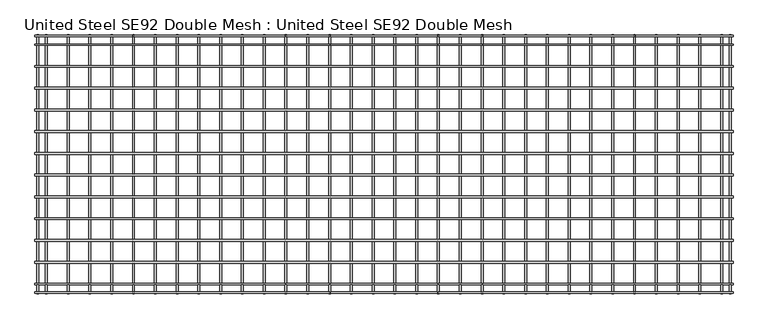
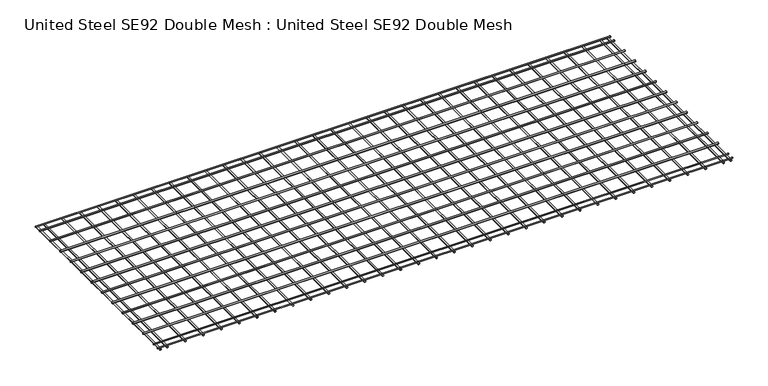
"""IFC4 building model written with IfcOpenShell, lengths in millimetres: proxy geometry, United Steel SE92 Double Mesh : United Steel SE92 Double Mesh."""

from ifc_helpers import new_model, si_unit, point, frame, frame_2d, origin, place, context, project, spatial, circle_curve, trimmed, segment, composite_curve, outline, extrude, source, transform, mapped, element, save


def united_steel_se92_double_mesh_united_steel_se92_double_mesh_89cb056f(model_context):
    return source(origin(), model_context, "Body", "SweptSolid", [
        extrude(outline(composite_curve([segment(trimmed(circle_curve(frame_2d((5.8975616, 1435.0)), 9.0), [point((5.8975616, 1444.0))], [point((5.8975616, 1426.0))], False, "CARTESIAN"), True, "CONTINUOUS"), segment(trimmed(circle_curve(frame_2d((5.8975616, 1435.0)), 9.0), [point((5.8975616, 1426.0))], [point((5.8975616, 1444.0))], False, "CARTESIAN"), True, "CONTINUOUS")], self_intersect=False)), frame((0.0, -2380.0, 0.0), z_axis=(0.0, 1.0, 0.0), x_axis=(0.0, 0.0, 1.0)), (0.0, 0.0, 1.0), 2380.0),
        extrude(outline(composite_curve([segment(trimmed(circle_curve(frame_2d((5.8975616, 1355.0)), 9.0), [point((5.8975616, 1364.0))], [point((5.8975616, 1346.0))], False, "CARTESIAN"), True, "CONTINUOUS"), segment(trimmed(circle_curve(frame_2d((5.8975616, 1355.0)), 9.0), [point((5.8975616, 1346.0))], [point((5.8975616, 1364.0))], False, "CARTESIAN"), True, "CONTINUOUS")], self_intersect=False)), frame((0.0, -2380.0, 0.0), z_axis=(0.0, 1.0, 0.0), x_axis=(0.0, 0.0, 1.0)), (0.0, 0.0, 1.0), 2380.0),
        extrude(outline(composite_curve([segment(trimmed(circle_curve(frame_2d((5.8975616, -4845.0004519)), 9.0), [point((5.8975616, -4836.0004519))], [point((5.8975616, -4854.0004519))], False, "CARTESIAN"), True, "CONTINUOUS"), segment(trimmed(circle_curve(frame_2d((5.8975616, -4845.0004519)), 9.0), [point((5.8975616, -4854.0004519))], [point((5.8975616, -4836.0004519))], False, "CARTESIAN"), True, "CONTINUOUS")], self_intersect=False)), frame((0.0, -2380.0, 0.0), z_axis=(0.0, 1.0, 0.0), x_axis=(0.0, 0.0, 1.0)), (0.0, 0.0, 1.0), 2380.0),
        extrude(outline(composite_curve([segment(trimmed(circle_curve(frame_2d((-2090.0, 23.8856726)), 9.0), [point((-2099.0, 23.8856726))], [point((-2081.0, 23.8856726))], False, "CARTESIAN"), True, "CONTINUOUS"), segment(trimmed(circle_curve(frame_2d((-2090.0, 23.8856726)), 9.0), [point((-2081.0, 23.8856726))], [point((-2099.0, 23.8856726))], False, "CARTESIAN"), True, "CONTINUOUS")], self_intersect=False)), frame((-4950.0, 0.0, 0.0), z_axis=(1.0, 0.0, 0.0), x_axis=(0.0, 1.0, 0.0)), (0.0, 0.0, 1.0), 6410.0),
        extrude(outline(composite_curve([segment(trimmed(circle_curve(frame_2d((-1890.0, 23.8856726)), 9.0), [point((-1899.0, 23.8856726))], [point((-1881.0, 23.8856726))], False, "CARTESIAN"), True, "CONTINUOUS"), segment(trimmed(circle_curve(frame_2d((-1890.0, 23.8856726)), 9.0), [point((-1881.0, 23.8856726))], [point((-1899.0, 23.8856726))], False, "CARTESIAN"), True, "CONTINUOUS")], self_intersect=False)), frame((-4950.0, 0.0, 0.0), z_axis=(1.0, 0.0, 0.0), x_axis=(0.0, 1.0, 0.0)), (0.0, 0.0, 1.0), 6410.0),
        extrude(outline(composite_curve([segment(trimmed(circle_curve(frame_2d((-1690.0, 23.8856726)), 9.0), [point((-1699.0, 23.8856726))], [point((-1681.0, 23.8856726))], False, "CARTESIAN"), True, "CONTINUOUS"), segment(trimmed(circle_curve(frame_2d((-1690.0, 23.8856726)), 9.0), [point((-1681.0, 23.8856726))], [point((-1699.0, 23.8856726))], False, "CARTESIAN"), True, "CONTINUOUS")], self_intersect=False)), frame((-4950.0, 0.0, 0.0), z_axis=(1.0, 0.0, 0.0), x_axis=(0.0, 1.0, 0.0)), (0.0, 0.0, 1.0), 6410.0),
        extrude(outline(composite_curve([segment(trimmed(circle_curve(frame_2d((-1490.0, 23.8856726)), 9.0), [point((-1499.0, 23.8856726))], [point((-1481.0, 23.8856726))], False, "CARTESIAN"), True, "CONTINUOUS"), segment(trimmed(circle_curve(frame_2d((-1490.0, 23.8856726)), 9.0), [point((-1481.0, 23.8856726))], [point((-1499.0, 23.8856726))], False, "CARTESIAN"), True, "CONTINUOUS")], self_intersect=False)), frame((-4950.0, 0.0, 0.0), z_axis=(1.0, 0.0, 0.0), x_axis=(0.0, 1.0, 0.0)), (0.0, 0.0, 1.0), 6410.0),
        extrude(outline(composite_curve([segment(trimmed(circle_curve(frame_2d((-1290.0, 23.8856726)), 9.0), [point((-1299.0, 23.8856726))], [point((-1281.0, 23.8856726))], False, "CARTESIAN"), True, "CONTINUOUS"), segment(trimmed(circle_curve(frame_2d((-1290.0, 23.8856726)), 9.0), [point((-1281.0, 23.8856726))], [point((-1299.0, 23.8856726))], False, "CARTESIAN"), True, "CONTINUOUS")], self_intersect=False)), frame((-4950.0, 0.0, 0.0), z_axis=(1.0, 0.0, 0.0), x_axis=(0.0, 1.0, 0.0)), (0.0, 0.0, 1.0), 6410.0),
        extrude(outline(composite_curve([segment(trimmed(circle_curve(frame_2d((-1090.0, 23.8856726)), 9.0), [point((-1099.0, 23.8856726))], [point((-1081.0, 23.8856726))], False, "CARTESIAN"), True, "CONTINUOUS"), segment(trimmed(circle_curve(frame_2d((-1090.0, 23.8856726)), 9.0), [point((-1081.0, 23.8856726))], [point((-1099.0, 23.8856726))], False, "CARTESIAN"), True, "CONTINUOUS")], self_intersect=False)), frame((-4950.0, 0.0, 0.0), z_axis=(1.0, 0.0, 0.0), x_axis=(0.0, 1.0, 0.0)), (0.0, 0.0, 1.0), 6410.0),
        extrude(outline(composite_curve([segment(trimmed(circle_curve(frame_2d((-890.0, 23.8856726)), 9.0), [point((-899.0, 23.8856726))], [point((-881.0, 23.8856726))], False, "CARTESIAN"), True, "CONTINUOUS"), segment(trimmed(circle_curve(frame_2d((-890.0, 23.8856726)), 9.0), [point((-881.0, 23.8856726))], [point((-899.0, 23.8856726))], False, "CARTESIAN"), True, "CONTINUOUS")], self_intersect=False)), frame((-4950.0, 0.0, 0.0), z_axis=(1.0, 0.0, 0.0), x_axis=(0.0, 1.0, 0.0)), (0.0, 0.0, 1.0), 6410.0),
        extrude(outline(composite_curve([segment(trimmed(circle_curve(frame_2d((-690.0, 23.8856726)), 9.0), [point((-699.0, 23.8856726))], [point((-681.0, 23.8856726))], False, "CARTESIAN"), True, "CONTINUOUS"), segment(trimmed(circle_curve(frame_2d((-690.0, 23.8856726)), 9.0), [point((-681.0, 23.8856726))], [point((-699.0, 23.8856726))], False, "CARTESIAN"), True, "CONTINUOUS")], self_intersect=False)), frame((-4950.0, 0.0, 0.0), z_axis=(1.0, 0.0, 0.0), x_axis=(0.0, 1.0, 0.0)), (0.0, 0.0, 1.0), 6410.0),
        extrude(outline(composite_curve([segment(trimmed(circle_curve(frame_2d((-490.0, 23.8856726)), 9.0), [point((-499.0, 23.8856726))], [point((-481.0, 23.8856726))], False, "CARTESIAN"), True, "CONTINUOUS"), segment(trimmed(circle_curve(frame_2d((-490.0, 23.8856726)), 9.0), [point((-481.0, 23.8856726))], [point((-499.0, 23.8856726))], False, "CARTESIAN"), True, "CONTINUOUS")], self_intersect=False)), frame((-4950.0, 0.0, 0.0), z_axis=(1.0, 0.0, 0.0), x_axis=(0.0, 1.0, 0.0)), (0.0, 0.0, 1.0), 6410.0),
        extrude(outline(composite_curve([segment(trimmed(circle_curve(frame_2d((-2290.0, 21.0190095)), 6.1), [point((-2296.1, 21.0190095))], [point((-2283.9, 21.0190095))], False, "CARTESIAN"), True, "CONTINUOUS"), segment(trimmed(circle_curve(frame_2d((-2290.0, 21.0190095)), 6.1), [point((-2283.9, 21.0190095))], [point((-2296.1, 21.0190095))], False, "CARTESIAN"), True, "CONTINUOUS")], self_intersect=False)), frame((-4950.0, 0.0, 0.0), z_axis=(1.0, 0.0, 0.0), x_axis=(0.0, 1.0, 0.0)), (0.0, 0.0, 1.0), 6410.0),
        extrude(outline(composite_curve([segment(trimmed(circle_curve(frame_2d((-2370.0, 21.0190095)), 6.1), [point((-2376.1, 21.0190095))], [point((-2363.9, 21.0190095))], False, "CARTESIAN"), True, "CONTINUOUS"), segment(trimmed(circle_curve(frame_2d((-2370.0, 21.0190095)), 6.1), [point((-2363.9, 21.0190095))], [point((-2376.1, 21.0190095))], False, "CARTESIAN"), True, "CONTINUOUS")], self_intersect=False)), frame((-4950.0, 0.0, 0.0), z_axis=(1.0, 0.0, 0.0), x_axis=(0.0, 1.0, 0.0)), (0.0, 0.0, 1.0), 6410.0),
        extrude(outline(composite_curve([segment(trimmed(circle_curve(frame_2d((-90.0, 21.0190095)), 6.1), [point((-96.1, 21.0190095))], [point((-83.9, 21.0190095))], False, "CARTESIAN"), True, "CONTINUOUS"), segment(trimmed(circle_curve(frame_2d((-90.0, 21.0190095)), 6.1), [point((-83.9, 21.0190095))], [point((-96.1, 21.0190095))], False, "CARTESIAN"), True, "CONTINUOUS")], self_intersect=False)), frame((-4950.0, 0.0, 0.0), z_axis=(1.0, 0.0, 0.0), x_axis=(0.0, 1.0, 0.0)), (0.0, 0.0, 1.0), 6410.0),
        extrude(outline(composite_curve([segment(trimmed(circle_curve(frame_2d((5.9028114, 1154.9995481)), 9.0), [point((5.9028114, 1145.9995481))], [point((5.9028114, 1163.9995481))], False, "CARTESIAN"), True, "CONTINUOUS"), segment(trimmed(circle_curve(frame_2d((5.9028114, 1154.9995481)), 9.0), [point((5.9028114, 1163.9995481))], [point((5.9028114, 1145.9995481))], False, "CARTESIAN"), True, "CONTINUOUS")], self_intersect=False)), frame((0.0, -2380.0, 0.0), z_axis=(0.0, 1.0, 0.0), x_axis=(0.0, 0.0, 1.0)), (0.0, 0.0, 1.0), 2380.0),
        extrude(outline(composite_curve([segment(trimmed(circle_curve(frame_2d((5.9028114, 954.9995481)), 9.0), [point((5.9028114, 945.9995481))], [point((5.9028114, 963.9995481))], False, "CARTESIAN"), True, "CONTINUOUS"), segment(trimmed(circle_curve(frame_2d((5.9028114, 954.9995481)), 9.0), [point((5.9028114, 963.9995481))], [point((5.9028114, 945.9995481))], False, "CARTESIAN"), True, "CONTINUOUS")], self_intersect=False)), frame((0.0, -2380.0, 0.0), z_axis=(0.0, 1.0, 0.0), x_axis=(0.0, 0.0, 1.0)), (0.0, 0.0, 1.0), 2380.0),
        extrude(outline(composite_curve([segment(trimmed(circle_curve(frame_2d((5.9028114, 754.9995481)), 9.0), [point((5.9028114, 745.9995481))], [point((5.9028114, 763.9995481))], False, "CARTESIAN"), True, "CONTINUOUS"), segment(trimmed(circle_curve(frame_2d((5.9028114, 754.9995481)), 9.0), [point((5.9028114, 763.9995481))], [point((5.9028114, 745.9995481))], False, "CARTESIAN"), True, "CONTINUOUS")], self_intersect=False)), frame((0.0, -2380.0, 0.0), z_axis=(0.0, 1.0, 0.0), x_axis=(0.0, 0.0, 1.0)), (0.0, 0.0, 1.0), 2380.0),
        extrude(outline(composite_curve([segment(trimmed(circle_curve(frame_2d((5.9028114, 554.9995481)), 9.0), [point((5.9028114, 545.9995481))], [point((5.9028114, 563.9995481))], False, "CARTESIAN"), True, "CONTINUOUS"), segment(trimmed(circle_curve(frame_2d((5.9028114, 554.9995481)), 9.0), [point((5.9028114, 563.9995481))], [point((5.9028114, 545.9995481))], False, "CARTESIAN"), True, "CONTINUOUS")], self_intersect=False)), frame((0.0, -2380.0, 0.0), z_axis=(0.0, 1.0, 0.0), x_axis=(0.0, 0.0, 1.0)), (0.0, 0.0, 1.0), 2380.0),
        extrude(outline(composite_curve([segment(trimmed(circle_curve(frame_2d((5.9028114, 354.9995481)), 9.0), [point((5.9028114, 345.9995481))], [point((5.9028114, 363.9995481))], False, "CARTESIAN"), True, "CONTINUOUS"), segment(trimmed(circle_curve(frame_2d((5.9028114, 354.9995481)), 9.0), [point((5.9028114, 363.9995481))], [point((5.9028114, 345.9995481))], False, "CARTESIAN"), True, "CONTINUOUS")], self_intersect=False)), frame((0.0, -2380.0, 0.0), z_axis=(0.0, 1.0, 0.0), x_axis=(0.0, 0.0, 1.0)), (0.0, 0.0, 1.0), 2380.0),
        extrude(outline(composite_curve([segment(trimmed(circle_curve(frame_2d((5.9028114, 154.9995481)), 9.0), [point((5.9028114, 145.9995481))], [point((5.9028114, 163.9995481))], False, "CARTESIAN"), True, "CONTINUOUS"), segment(trimmed(circle_curve(frame_2d((5.9028114, 154.9995481)), 9.0), [point((5.9028114, 163.9995481))], [point((5.9028114, 145.9995481))], False, "CARTESIAN"), True, "CONTINUOUS")], self_intersect=False)), frame((0.0, -2380.0, 0.0), z_axis=(0.0, 1.0, 0.0), x_axis=(0.0, 0.0, 1.0)), (0.0, 0.0, 1.0), 2380.0),
        extrude(outline(composite_curve([segment(trimmed(circle_curve(frame_2d((5.9028114, -45.0004519)), 9.0), [point((5.9028114, -54.0004519))], [point((5.9028114, -36.0004519))], False, "CARTESIAN"), True, "CONTINUOUS"), segment(trimmed(circle_curve(frame_2d((5.9028114, -45.0004519)), 9.0), [point((5.9028114, -36.0004519))], [point((5.9028114, -54.0004519))], False, "CARTESIAN"), True, "CONTINUOUS")], self_intersect=False)), frame((0.0, -2380.0, 0.0), z_axis=(0.0, 1.0, 0.0), x_axis=(0.0, 0.0, 1.0)), (0.0, 0.0, 1.0), 2380.0),
        extrude(outline(composite_curve([segment(trimmed(circle_curve(frame_2d((5.9028114, -245.0004519)), 9.0), [point((5.9028114, -254.0004519))], [point((5.9028114, -236.0004519))], False, "CARTESIAN"), True, "CONTINUOUS"), segment(trimmed(circle_curve(frame_2d((5.9028114, -245.0004519)), 9.0), [point((5.9028114, -236.0004519))], [point((5.9028114, -254.0004519))], False, "CARTESIAN"), True, "CONTINUOUS")], self_intersect=False)), frame((0.0, -2380.0, 0.0), z_axis=(0.0, 1.0, 0.0), x_axis=(0.0, 0.0, 1.0)), (0.0, 0.0, 1.0), 2380.0),
        extrude(outline(composite_curve([segment(trimmed(circle_curve(frame_2d((5.9028114, -445.0004519)), 9.0), [point((5.9028114, -454.0004519))], [point((5.9028114, -436.0004519))], False, "CARTESIAN"), True, "CONTINUOUS"), segment(trimmed(circle_curve(frame_2d((5.9028114, -445.0004519)), 9.0), [point((5.9028114, -436.0004519))], [point((5.9028114, -454.0004519))], False, "CARTESIAN"), True, "CONTINUOUS")], self_intersect=False)), frame((0.0, -2380.0, 0.0), z_axis=(0.0, 1.0, 0.0), x_axis=(0.0, 0.0, 1.0)), (0.0, 0.0, 1.0), 2380.0),
        extrude(outline(composite_curve([segment(trimmed(circle_curve(frame_2d((5.9028114, -645.0004519)), 9.0), [point((5.9028114, -654.0004519))], [point((5.9028114, -636.0004519))], False, "CARTESIAN"), True, "CONTINUOUS"), segment(trimmed(circle_curve(frame_2d((5.9028114, -645.0004519)), 9.0), [point((5.9028114, -636.0004519))], [point((5.9028114, -654.0004519))], False, "CARTESIAN"), True, "CONTINUOUS")], self_intersect=False)), frame((0.0, -2380.0, 0.0), z_axis=(0.0, 1.0, 0.0), x_axis=(0.0, 0.0, 1.0)), (0.0, 0.0, 1.0), 2380.0),
        extrude(outline(composite_curve([segment(trimmed(circle_curve(frame_2d((5.9028114, -845.0004519)), 9.0), [point((5.9028114, -854.0004519))], [point((5.9028114, -836.0004519))], False, "CARTESIAN"), True, "CONTINUOUS"), segment(trimmed(circle_curve(frame_2d((5.9028114, -845.0004519)), 9.0), [point((5.9028114, -836.0004519))], [point((5.9028114, -854.0004519))], False, "CARTESIAN"), True, "CONTINUOUS")], self_intersect=False)), frame((0.0, -2380.0, 0.0), z_axis=(0.0, 1.0, 0.0), x_axis=(0.0, 0.0, 1.0)), (0.0, 0.0, 1.0), 2380.0),
        extrude(outline(composite_curve([segment(trimmed(circle_curve(frame_2d((5.9028114, -1045.0004519)), 9.0), [point((5.9028114, -1054.0004519))], [point((5.9028114, -1036.0004519))], False, "CARTESIAN"), True, "CONTINUOUS"), segment(trimmed(circle_curve(frame_2d((5.9028114, -1045.0004519)), 9.0), [point((5.9028114, -1036.0004519))], [point((5.9028114, -1054.0004519))], False, "CARTESIAN"), True, "CONTINUOUS")], self_intersect=False)), frame((0.0, -2380.0, 0.0), z_axis=(0.0, 1.0, 0.0), x_axis=(0.0, 0.0, 1.0)), (0.0, 0.0, 1.0), 2380.0),
        extrude(outline(composite_curve([segment(trimmed(circle_curve(frame_2d((5.9028114, -1245.0004519)), 9.0), [point((5.9028114, -1254.0004519))], [point((5.9028114, -1236.0004519))], False, "CARTESIAN"), True, "CONTINUOUS"), segment(trimmed(circle_curve(frame_2d((5.9028114, -1245.0004519)), 9.0), [point((5.9028114, -1236.0004519))], [point((5.9028114, -1254.0004519))], False, "CARTESIAN"), True, "CONTINUOUS")], self_intersect=False)), frame((0.0, -2380.0, 0.0), z_axis=(0.0, 1.0, 0.0), x_axis=(0.0, 0.0, 1.0)), (0.0, 0.0, 1.0), 2380.0),
        extrude(outline(composite_curve([segment(trimmed(circle_curve(frame_2d((5.9028114, -1445.0004519)), 9.0), [point((5.9028114, -1454.0004519))], [point((5.9028114, -1436.0004519))], False, "CARTESIAN"), True, "CONTINUOUS"), segment(trimmed(circle_curve(frame_2d((5.9028114, -1445.0004519)), 9.0), [point((5.9028114, -1436.0004519))], [point((5.9028114, -1454.0004519))], False, "CARTESIAN"), True, "CONTINUOUS")], self_intersect=False)), frame((0.0, -2380.0, 0.0), z_axis=(0.0, 1.0, 0.0), x_axis=(0.0, 0.0, 1.0)), (0.0, 0.0, 1.0), 2380.0),
        extrude(outline(composite_curve([segment(trimmed(circle_curve(frame_2d((5.9028114, -1645.0004519)), 9.0), [point((5.9028114, -1654.0004519))], [point((5.9028114, -1636.0004519))], False, "CARTESIAN"), True, "CONTINUOUS"), segment(trimmed(circle_curve(frame_2d((5.9028114, -1645.0004519)), 9.0), [point((5.9028114, -1636.0004519))], [point((5.9028114, -1654.0004519))], False, "CARTESIAN"), True, "CONTINUOUS")], self_intersect=False)), frame((0.0, -2380.0, 0.0), z_axis=(0.0, 1.0, 0.0), x_axis=(0.0, 0.0, 1.0)), (0.0, 0.0, 1.0), 2380.0),
        extrude(outline(composite_curve([segment(trimmed(circle_curve(frame_2d((5.9028114, -1845.0004519)), 9.0), [point((5.9028114, -1854.0004519))], [point((5.9028114, -1836.0004519))], False, "CARTESIAN"), True, "CONTINUOUS"), segment(trimmed(circle_curve(frame_2d((5.9028114, -1845.0004519)), 9.0), [point((5.9028114, -1836.0004519))], [point((5.9028114, -1854.0004519))], False, "CARTESIAN"), True, "CONTINUOUS")], self_intersect=False)), frame((0.0, -2380.0, 0.0), z_axis=(0.0, 1.0, 0.0), x_axis=(0.0, 0.0, 1.0)), (0.0, 0.0, 1.0), 2380.0),
        extrude(outline(composite_curve([segment(trimmed(circle_curve(frame_2d((5.9028114, -2045.0004519)), 9.0), [point((5.9028114, -2054.0004519))], [point((5.9028114, -2036.0004519))], False, "CARTESIAN"), True, "CONTINUOUS"), segment(trimmed(circle_curve(frame_2d((5.9028114, -2045.0004519)), 9.0), [point((5.9028114, -2036.0004519))], [point((5.9028114, -2054.0004519))], False, "CARTESIAN"), True, "CONTINUOUS")], self_intersect=False)), frame((0.0, -2380.0, 0.0), z_axis=(0.0, 1.0, 0.0), x_axis=(0.0, 0.0, 1.0)), (0.0, 0.0, 1.0), 2380.0),
        extrude(outline(composite_curve([segment(trimmed(circle_curve(frame_2d((5.9028114, -2245.0004519)), 9.0), [point((5.9028114, -2254.0004519))], [point((5.9028114, -2236.0004519))], False, "CARTESIAN"), True, "CONTINUOUS"), segment(trimmed(circle_curve(frame_2d((5.9028114, -2245.0004519)), 9.0), [point((5.9028114, -2236.0004519))], [point((5.9028114, -2254.0004519))], False, "CARTESIAN"), True, "CONTINUOUS")], self_intersect=False)), frame((0.0, -2380.0, 0.0), z_axis=(0.0, 1.0, 0.0), x_axis=(0.0, 0.0, 1.0)), (0.0, 0.0, 1.0), 2380.0),
        extrude(outline(composite_curve([segment(trimmed(circle_curve(frame_2d((5.9028114, -2445.0004519)), 9.0), [point((5.9028114, -2454.0004519))], [point((5.9028114, -2436.0004519))], False, "CARTESIAN"), True, "CONTINUOUS"), segment(trimmed(circle_curve(frame_2d((5.9028114, -2445.0004519)), 9.0), [point((5.9028114, -2436.0004519))], [point((5.9028114, -2454.0004519))], False, "CARTESIAN"), True, "CONTINUOUS")], self_intersect=False)), frame((0.0, -2380.0, 0.0), z_axis=(0.0, 1.0, 0.0), x_axis=(0.0, 0.0, 1.0)), (0.0, 0.0, 1.0), 2380.0),
        extrude(outline(composite_curve([segment(trimmed(circle_curve(frame_2d((5.9028114, -2645.0004519)), 9.0), [point((5.9028114, -2654.0004519))], [point((5.9028114, -2636.0004519))], False, "CARTESIAN"), True, "CONTINUOUS"), segment(trimmed(circle_curve(frame_2d((5.9028114, -2645.0004519)), 9.0), [point((5.9028114, -2636.0004519))], [point((5.9028114, -2654.0004519))], False, "CARTESIAN"), True, "CONTINUOUS")], self_intersect=False)), frame((0.0, -2380.0, 0.0), z_axis=(0.0, 1.0, 0.0), x_axis=(0.0, 0.0, 1.0)), (0.0, 0.0, 1.0), 2380.0),
        extrude(outline(composite_curve([segment(trimmed(circle_curve(frame_2d((5.9028114, -2845.0004519)), 9.0), [point((5.9028114, -2854.0004519))], [point((5.9028114, -2836.0004519))], False, "CARTESIAN"), True, "CONTINUOUS"), segment(trimmed(circle_curve(frame_2d((5.9028114, -2845.0004519)), 9.0), [point((5.9028114, -2836.0004519))], [point((5.9028114, -2854.0004519))], False, "CARTESIAN"), True, "CONTINUOUS")], self_intersect=False)), frame((0.0, -2380.0, 0.0), z_axis=(0.0, 1.0, 0.0), x_axis=(0.0, 0.0, 1.0)), (0.0, 0.0, 1.0), 2380.0),
        extrude(outline(composite_curve([segment(trimmed(circle_curve(frame_2d((5.9028114, -3045.0004519)), 9.0), [point((5.9028114, -3054.0004519))], [point((5.9028114, -3036.0004519))], False, "CARTESIAN"), True, "CONTINUOUS"), segment(trimmed(circle_curve(frame_2d((5.9028114, -3045.0004519)), 9.0), [point((5.9028114, -3036.0004519))], [point((5.9028114, -3054.0004519))], False, "CARTESIAN"), True, "CONTINUOUS")], self_intersect=False)), frame((0.0, -2380.0, 0.0), z_axis=(0.0, 1.0, 0.0), x_axis=(0.0, 0.0, 1.0)), (0.0, 0.0, 1.0), 2380.0),
        extrude(outline(composite_curve([segment(trimmed(circle_curve(frame_2d((5.9028114, -3245.0004519)), 9.0), [point((5.9028114, -3254.0004519))], [point((5.9028114, -3236.0004519))], False, "CARTESIAN"), True, "CONTINUOUS"), segment(trimmed(circle_curve(frame_2d((5.9028114, -3245.0004519)), 9.0), [point((5.9028114, -3236.0004519))], [point((5.9028114, -3254.0004519))], False, "CARTESIAN"), True, "CONTINUOUS")], self_intersect=False)), frame((0.0, -2380.0, 0.0), z_axis=(0.0, 1.0, 0.0), x_axis=(0.0, 0.0, 1.0)), (0.0, 0.0, 1.0), 2380.0),
        extrude(outline(composite_curve([segment(trimmed(circle_curve(frame_2d((5.9028114, -3445.0004519)), 9.0), [point((5.9028114, -3454.0004519))], [point((5.9028114, -3436.0004519))], False, "CARTESIAN"), True, "CONTINUOUS"), segment(trimmed(circle_curve(frame_2d((5.9028114, -3445.0004519)), 9.0), [point((5.9028114, -3436.0004519))], [point((5.9028114, -3454.0004519))], False, "CARTESIAN"), True, "CONTINUOUS")], self_intersect=False)), frame((0.0, -2380.0, 0.0), z_axis=(0.0, 1.0, 0.0), x_axis=(0.0, 0.0, 1.0)), (0.0, 0.0, 1.0), 2380.0),
        extrude(outline(composite_curve([segment(trimmed(circle_curve(frame_2d((5.9028114, -3645.0004519)), 9.0), [point((5.9028114, -3654.0004519))], [point((5.9028114, -3636.0004519))], False, "CARTESIAN"), True, "CONTINUOUS"), segment(trimmed(circle_curve(frame_2d((5.9028114, -3645.0004519)), 9.0), [point((5.9028114, -3636.0004519))], [point((5.9028114, -3654.0004519))], False, "CARTESIAN"), True, "CONTINUOUS")], self_intersect=False)), frame((0.0, -2380.0, 0.0), z_axis=(0.0, 1.0, 0.0), x_axis=(0.0, 0.0, 1.0)), (0.0, 0.0, 1.0), 2380.0),
        extrude(outline(composite_curve([segment(trimmed(circle_curve(frame_2d((5.9028114, -3845.0004519)), 9.0), [point((5.9028114, -3854.0004519))], [point((5.9028114, -3836.0004519))], False, "CARTESIAN"), True, "CONTINUOUS"), segment(trimmed(circle_curve(frame_2d((5.9028114, -3845.0004519)), 9.0), [point((5.9028114, -3836.0004519))], [point((5.9028114, -3854.0004519))], False, "CARTESIAN"), True, "CONTINUOUS")], self_intersect=False)), frame((0.0, -2380.0, 0.0), z_axis=(0.0, 1.0, 0.0), x_axis=(0.0, 0.0, 1.0)), (0.0, 0.0, 1.0), 2380.0),
        extrude(outline(composite_curve([segment(trimmed(circle_curve(frame_2d((5.9028114, -4045.0004519)), 9.0), [point((5.9028114, -4054.0004519))], [point((5.9028114, -4036.0004519))], False, "CARTESIAN"), True, "CONTINUOUS"), segment(trimmed(circle_curve(frame_2d((5.9028114, -4045.0004519)), 9.0), [point((5.9028114, -4036.0004519))], [point((5.9028114, -4054.0004519))], False, "CARTESIAN"), True, "CONTINUOUS")], self_intersect=False)), frame((0.0, -2380.0, 0.0), z_axis=(0.0, 1.0, 0.0), x_axis=(0.0, 0.0, 1.0)), (0.0, 0.0, 1.0), 2380.0),
        extrude(outline(composite_curve([segment(trimmed(circle_curve(frame_2d((5.9028114, -4245.0004519)), 9.0), [point((5.9028114, -4254.0004519))], [point((5.9028114, -4236.0004519))], False, "CARTESIAN"), True, "CONTINUOUS"), segment(trimmed(circle_curve(frame_2d((5.9028114, -4245.0004519)), 9.0), [point((5.9028114, -4236.0004519))], [point((5.9028114, -4254.0004519))], False, "CARTESIAN"), True, "CONTINUOUS")], self_intersect=False)), frame((0.0, -2380.0, 0.0), z_axis=(0.0, 1.0, 0.0), x_axis=(0.0, 0.0, 1.0)), (0.0, 0.0, 1.0), 2380.0),
        extrude(outline(composite_curve([segment(trimmed(circle_curve(frame_2d((5.9028114, -4445.0004519)), 9.0), [point((5.9028114, -4454.0004519))], [point((5.9028114, -4436.0004519))], False, "CARTESIAN"), True, "CONTINUOUS"), segment(trimmed(circle_curve(frame_2d((5.9028114, -4445.0004519)), 9.0), [point((5.9028114, -4436.0004519))], [point((5.9028114, -4454.0004519))], False, "CARTESIAN"), True, "CONTINUOUS")], self_intersect=False)), frame((0.0, -2380.0, 0.0), z_axis=(0.0, 1.0, 0.0), x_axis=(0.0, 0.0, 1.0)), (0.0, 0.0, 1.0), 2380.0),
        extrude(outline(composite_curve([segment(trimmed(circle_curve(frame_2d((5.8975616, -4925.0)), 9.0), [point((5.8975616, -4916.0))], [point((5.8975616, -4934.0))], False, "CARTESIAN"), True, "CONTINUOUS"), segment(trimmed(circle_curve(frame_2d((5.8975616, -4925.0)), 9.0), [point((5.8975616, -4934.0))], [point((5.8975616, -4916.0))], False, "CARTESIAN"), True, "CONTINUOUS")], self_intersect=False)), frame((0.0, -2380.0, 0.0), z_axis=(0.0, 1.0, 0.0), x_axis=(0.0, 0.0, 1.0)), (0.0, 0.0, 1.0), 2380.0),
        extrude(outline(composite_curve([segment(trimmed(circle_curve(frame_2d((5.9028114, -4645.0004519)), 9.0), [point((5.9028114, -4654.0004519))], [point((5.9028114, -4636.0004519))], False, "CARTESIAN"), True, "CONTINUOUS"), segment(trimmed(circle_curve(frame_2d((5.9028114, -4645.0004519)), 9.0), [point((5.9028114, -4636.0004519))], [point((5.9028114, -4654.0004519))], False, "CARTESIAN"), True, "CONTINUOUS")], self_intersect=False)), frame((0.0, -2380.0, 0.0), z_axis=(0.0, 1.0, 0.0), x_axis=(0.0, 0.0, 1.0)), (0.0, 0.0, 1.0), 2380.0),
        extrude(outline(composite_curve([segment(trimmed(circle_curve(frame_2d((-290.0, 23.8856726)), 9.0), [point((-299.0, 23.8856726))], [point((-281.0, 23.8856726))], False, "CARTESIAN"), True, "CONTINUOUS"), segment(trimmed(circle_curve(frame_2d((-290.0, 23.8856726)), 9.0), [point((-281.0, 23.8856726))], [point((-299.0, 23.8856726))], False, "CARTESIAN"), True, "CONTINUOUS")], self_intersect=False)), frame((-4950.0, 0.0, 0.0), z_axis=(1.0, 0.0, 0.0), x_axis=(0.0, 1.0, 0.0)), (0.0, 0.0, 1.0), 6410.0),
        extrude(outline(composite_curve([segment(trimmed(circle_curve(frame_2d((-10.0, 21.0190095)), 6.1), [point((-16.1, 21.0190095))], [point((-3.9, 21.0190095))], False, "CARTESIAN"), True, "CONTINUOUS"), segment(trimmed(circle_curve(frame_2d((-10.0, 21.0190095)), 6.1), [point((-3.9, 21.0190095))], [point((-16.1, 21.0190095))], False, "CARTESIAN"), True, "CONTINUOUS")], self_intersect=False)), frame((-4950.0, 0.0, 0.0), z_axis=(1.0, 0.0, 0.0), x_axis=(0.0, 1.0, 0.0)), (0.0, 0.0, 1.0), 6410.0),
    ])


if __name__ == "__main__":
    model = new_model("IFC4")
    model_context = context("Model", 3, world=origin())
    ifc_project = project(units=[si_unit("LENGTHUNIT", "METRE", prefix="MILLI")], contexts=[model_context])
    site = spatial("IfcSite", under=ifc_project)
    building = spatial("IfcBuilding", under=site)
    placement = place(None, origin())
    united_steel_se92_double_mesh_united_steel_se92_double_mesh_shape = united_steel_se92_double_mesh_united_steel_se92_double_mesh_89cb056f(model_context)
    element("IfcBuildingElementProxy", 1, Name="United Steel SE92 Double Mesh : United Steel SE92 Double Mesh", ObjectType="United Steel SE92 Double Mesh : United Steel SE92 Double Mesh", at=placement, inside=building, context=model_context, shape_type="MappedRepresentation", body=[
        mapped(united_steel_se92_double_mesh_united_steel_se92_double_mesh_shape, transform((0.0, 0.0, 0.0), x_axis=(1.0, 0.0, 0.0), y_axis=(0.0, 1.0, 0.0), z_axis=(0.0, 0.0, 1.0))),
    ])
    save(model, "model.ifc")
